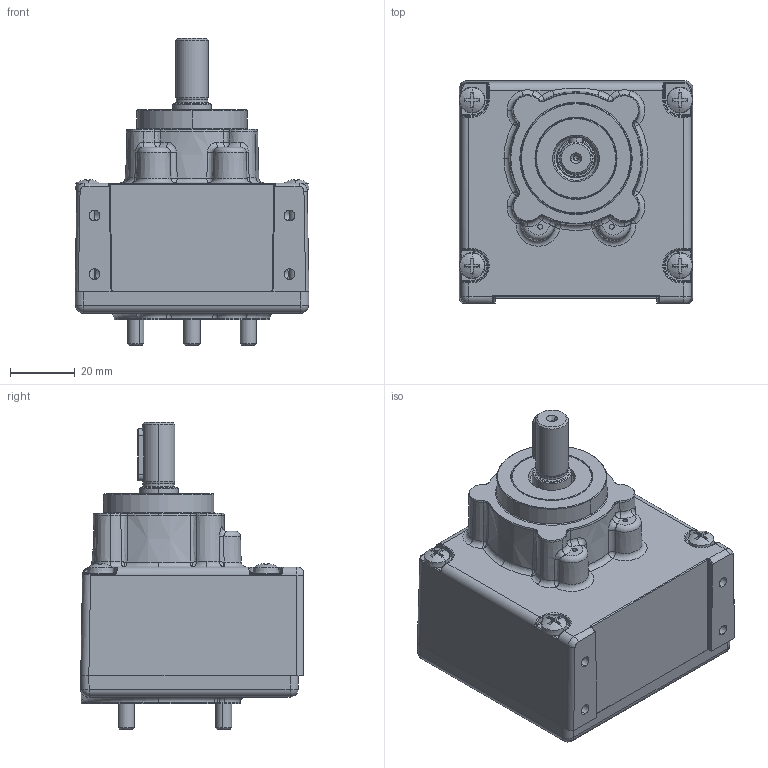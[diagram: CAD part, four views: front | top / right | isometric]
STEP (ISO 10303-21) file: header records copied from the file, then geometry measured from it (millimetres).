
FILE_DESCRIPTION (( 'STEP AP214' ), '1' );
FILE_NAME ('Getriebe SG80 B3 Passfeder.STEP', '2026-02-03T10:37:24', ( '' ), ( '' ), 'SwSTEP 2.0', 'SolidWorks 2024', '' );
FILE_SCHEMA (( 'AUTOMOTIVE_DESIGN' ));
Length unit declared in the file: millimetre
Products named in the file (1): Getriebe SG80 B3 Passfeder
Bounding box: 72 x 68.49 x 94.5 mm (x, y, z)
Volume: 216653 mm3; surface area: 46696.2 mm2
Topology: 13 solids, 24 shells, 1080 faces, 2513 edges, 1474 vertices
Faces by surface type: plane 291, cylinder 242, cone 231, torus 145, bspline 109, sphere 62
Entity records: 34211 total; most frequent: CARTESIAN_POINT 10066, DIRECTION 5220, ORIENTED_EDGE 4954, EDGE_CURVE 2477, AXIS2_PLACEMENT_3D 2127, VERTEX_POINT 1474, CIRCLE 1155, EDGE_LOOP 1147
